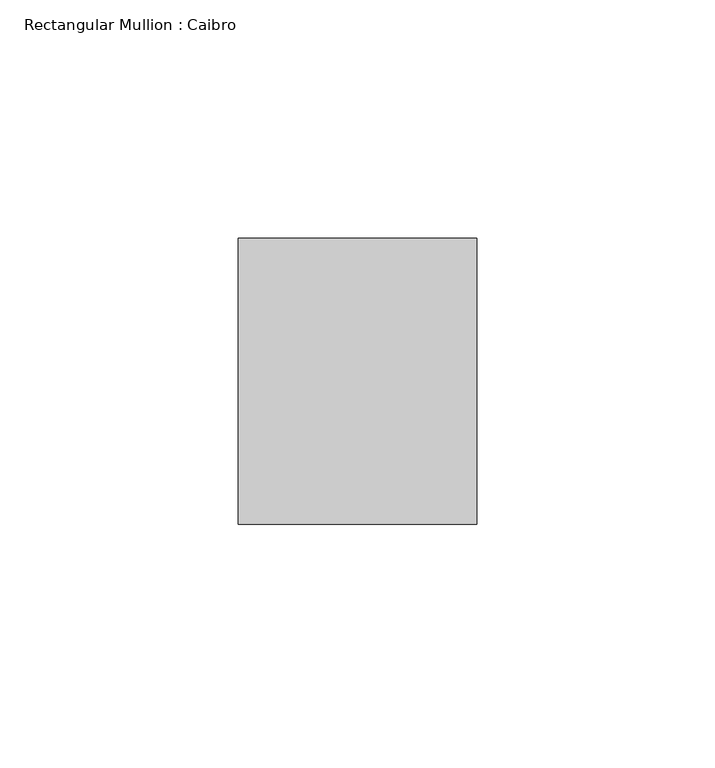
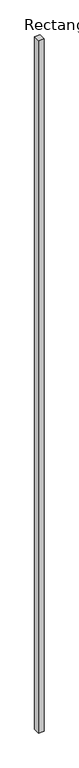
"""IFC4 building model written with IfcOpenShell, lengths in millimetres: member geometry, Rectangular Mullion : Caibro."""

from ifc_helpers import new_model, si_unit, frame, origin, place, context, project, spatial, polyline, outline, extrude, source, transform, mapped, element, save


def rectangular_mullion_caibro_a4ed09ad(model_context):
    return source(origin(), model_context, "Body", "SweptSolid", [
        extrude(outline(polyline([(-25.0, -60.0), (-25.0, 0.0), (25.0, 0.0), (25.0, -60.0), (-25.0, -60.0)])), frame((0.0, 0.0, -6651.7961657), z_axis=(0.0, 0.0, 1.0), x_axis=(1.0, 0.0, 0.0)), (0.0, 0.0, 1.0), 6651.7961657),
    ])


if __name__ == "__main__":
    model = new_model("IFC4")
    model_context = context("Model", 3, world=origin())
    ifc_project = project(units=[si_unit("LENGTHUNIT", "METRE", prefix="MILLI")], contexts=[model_context])
    site = spatial("IfcSite", under=ifc_project)
    building = spatial("IfcBuilding", under=site)
    placement = place(None, origin())
    rectangular_mullion_caibro_shape = rectangular_mullion_caibro_a4ed09ad(model_context)
    element("IfcMember", 1, ObjectType="Rectangular Mullion : Caibro", at=placement, inside=building, context=model_context, shape_type="MappedRepresentation", body=[
        mapped(rectangular_mullion_caibro_shape, transform((0.0, 0.0, 0.0), x_axis=(1.0, 0.0, 0.0), y_axis=(0.0, 1.0, 0.0), z_axis=(0.0, 0.0, 1.0))),
    ])
    save(model, "model.ifc")
